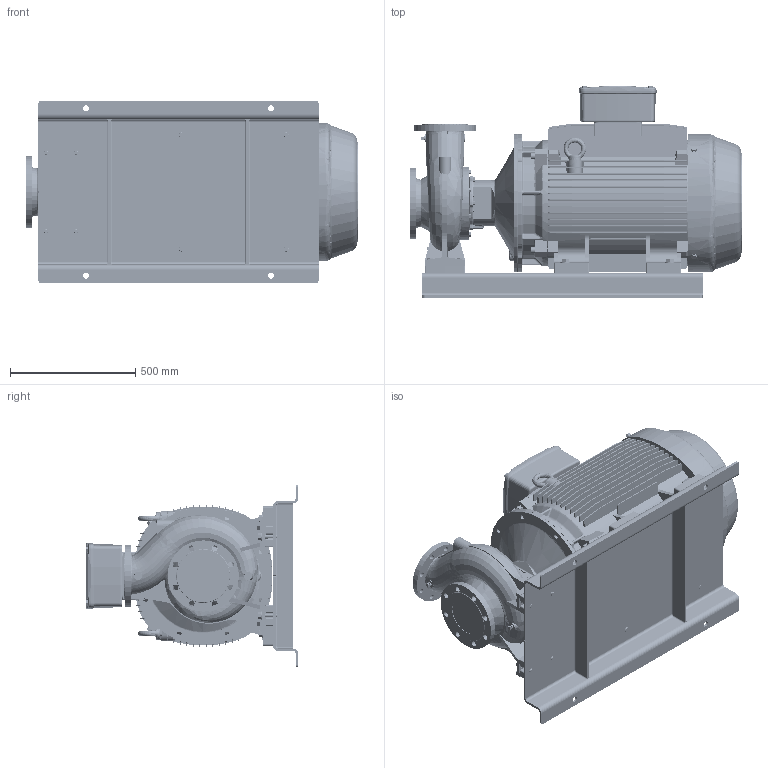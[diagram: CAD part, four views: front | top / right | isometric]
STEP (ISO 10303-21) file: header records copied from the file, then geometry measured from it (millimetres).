
FILE_DESCRIPTION (( 'STEP AP214' ), '1' );
FILE_NAME ('GSD2 125-200_90 & 110_(280SM)_W21_BP.STEP', '2024-05-21T03:56:39', ( '' ), ( '' ), 'SwSTEP 2.0', 'SolidWorks 2019', '' );
FILE_SCHEMA (( 'AUTOMOTIVE_DESIGN' ));
Length unit declared in the file: millimetre
Products named in the file (17): 125-200-280S_M_______; Parametric bolt and washer_SFT-A411B; N9S4 GSDA-948 F1-1832980-00; Parametric bolt_SFT-A411B; Parametric bolt_SFT-A365B; Parametric bolt and washer_SFT-A365B; Parametric Flat Washer_M16; 280S_M2P IE3_W21T_B35; Parametric Flat Washer_M20; CGS11-5321_2_3_4_5_CGS11-5324; GSD2  125-200_90 & 110_(280SM)_W21_BP
Assembly tree (29 placements, depth 3):
  GSD2  125-200_90 & 110_(280SM)_W21_BP
    125-200-280S_M_______
    280S_M2P IE3_W21T_B35
    CGS11-5321_2_3_4_5_CGS11-5324  x2
    N9S4 GSDA-948 F1-1832980-00
    Parametric bolt and washer_SFT-A365B
      Parametric bolt_SFT-A365B
      Parametric Flat Washer_M16
    Parametric bolt and washer_SFT-A365B
      Parametric bolt_SFT-A365B
      Parametric Flat Washer_M16
    Parametric bolt and washer_SFT-A365B
      Parametric bolt_SFT-A365B
      Parametric Flat Washer_M16
    Parametric bolt and washer_SFT-A365B
      Parametric bolt_SFT-A365B
      Parametric Flat Washer_M16
    Parametric bolt and washer_SFT-A411B
      Parametric bolt_SFT-A411B
      Parametric Flat Washer_M20
    Parametric bolt and washer_SFT-A411B
      Parametric bolt_SFT-A411B
      Parametric Flat Washer_M20
    Parametric bolt and washer_SFT-A411B
      Parametric bolt_SFT-A411B
      Parametric Flat Washer_M20
    Parametric bolt and washer_SFT-A411B
      Parametric bolt_SFT-A411B
      Parametric Flat Washer_M20
Bounding box: 1328 x 849.6 x 730 mm (x, y, z)
Volume: 246405336.7 mm3; surface area: 8469276.7 mm2
Topology: 22 solids, 29 shells, 3952 faces, 10415 edges, 6652 vertices
Faces by surface type: plane 1617, cylinder 1297, cone 504, torus 252, bspline 252, sphere 30
Entity records: 161941 total; most frequent: CARTESIAN_POINT 76871, ORIENTED_EDGE 18374, DIRECTION 17159, EDGE_CURVE 9187, AXIS2_PLACEMENT_3D 6350, VERTEX_POINT 5867, LINE 4459, VECTOR 4459
